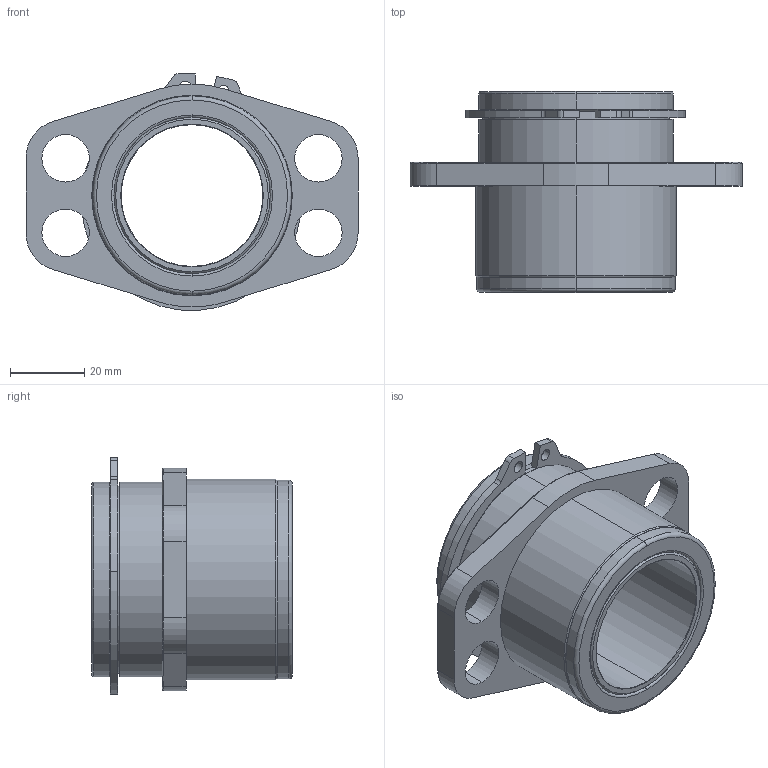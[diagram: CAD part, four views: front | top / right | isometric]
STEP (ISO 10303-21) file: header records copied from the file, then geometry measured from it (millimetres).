
FILE_DESCRIPTION (( 'STEP AP214' ), '1' );
FILE_NAME ('GK150-L2-M-Base.STEP', '2011-05-18T13:29:46', ( '' ), ( '' ), 'SwSTEP 2.0', 'SolidWorks 2010', '' );
FILE_SCHEMA (( 'AUTOMOTIVE_DESIGN' ));
Length unit declared in the file: inch
Products named in the file (4): Base-GK150-L_Base-GK150-L2-M-Cust; RetainingRing-External-Standard-2.125Shaft_RetainingRing-External-Standard-2.125Shaft-L; Bushing-BU-1.5ID-2.0Long_Bushing-BU-1.5ID-2.0Long; GK150-L2-M-Base
Assembly tree (3 placements, depth 2):
  GK150-L2-M-Base
    Base-GK150-L_Base-GK150-L2-M-Cust
    RetainingRing-External-Standard-2.125Shaft_RetainingRing-External-Standard-2.125Shaft-L
    Bushing-BU-1.5ID-2.0Long_Bushing-BU-1.5ID-2.0Long
Bounding box: 89.27 x 53.98 x 63.7 mm (x, y, z)
Volume: 68982.1 mm3; surface area: 37949.5 mm2
Topology: 3 solids, 3 shells, 103 faces, 241 edges, 147 vertices
Faces by surface type: cylinder 51, plane 21, torus 17, cone 14
Entity records: 3199 total; most frequent: DIRECTION 599, CARTESIAN_POINT 497, ORIENTED_EDGE 482, AXIS2_PLACEMENT_3D 249, EDGE_CURVE 241, VERTEX_POINT 147, CIRCLE 140, EDGE_LOOP 122
